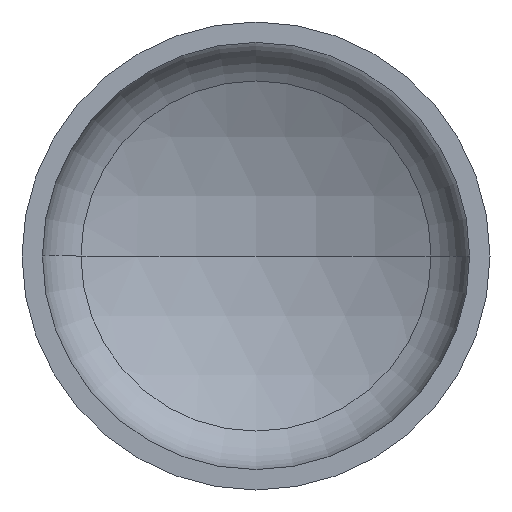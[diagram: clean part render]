
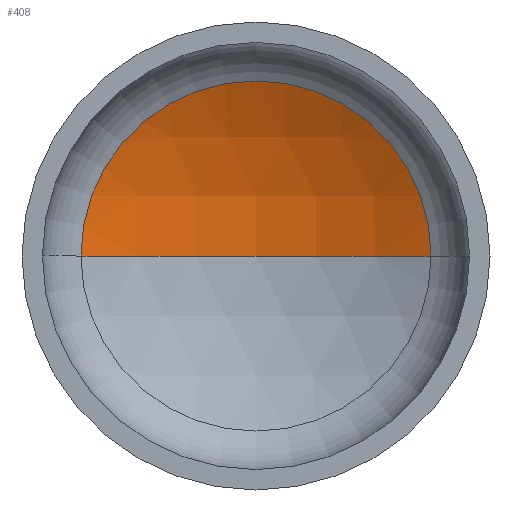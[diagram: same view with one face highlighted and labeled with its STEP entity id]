
A CAD part, front view. The second image highlights one B-rep face of the part: STEP entity #408.
In plain terms, the highlighted spherical face has radius 1760 mm.
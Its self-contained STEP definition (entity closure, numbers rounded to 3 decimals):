
#13 = VERTEX_POINT ( 'NONE', #345 ) ;
#14 = AXIS2_PLACEMENT_3D ( 'NONE', #207, #381, #386 ) ;
#15 = AXIS2_PLACEMENT_3D ( 'NONE', #126, #127, #240 ) ;
#39 = EDGE_LOOP ( 'NONE', ( #81, #98, #108 ) ) ;
#81 = ORIENTED_EDGE ( 'NONE', *, *, #378, .F. ) ;
#98 = ORIENTED_EDGE ( 'NONE', *, *, #340, .T. ) ;
#101 = CARTESIAN_POINT ( 'NONE',  ( 0., -1155.191, 0. ) ) ;
#108 = ORIENTED_EDGE ( 'NONE', *, *, #337, .T. ) ;
#126 = CARTESIAN_POINT ( 'NONE',  ( 0., 400.539, 0. ) ) ;
#127 = DIRECTION ( 'NONE',  ( 0., -1., 0. ) ) ;
#130 = VERTEX_POINT ( 'NONE', #162 ) ;
#140 = DIRECTION ( 'NONE',  ( 0., 0., 1. ) ) ;
#153 = SPHERICAL_SURFACE ( 'NONE', #350, 1760. ) ;
#162 = CARTESIAN_POINT ( 'NONE',  ( 822.986, 400.539, 0. ) ) ;
#164 = FACE_OUTER_BOUND ( 'NONE', #39, .T. ) ;
#181 = VERTEX_POINT ( 'NONE', #186 ) ;
#186 = CARTESIAN_POINT ( 'NONE',  ( -822.986, 400.539, 0. ) ) ;
#204 = CIRCLE ( 'NONE', #15, 822.986 ) ;
#207 = CARTESIAN_POINT ( 'NONE',  ( 0., -1155.191, 0. ) ) ;
#240 = DIRECTION ( 'NONE',  ( 1., 0., 0. ) ) ;
#264 = DIRECTION ( 'NONE',  ( 0., 0., -1. ) ) ;
#265 = DIRECTION ( 'NONE',  ( 1., 0., 0. ) ) ;
#278 = AXIS2_PLACEMENT_3D ( 'NONE', #317, #140, #265 ) ;
#317 = CARTESIAN_POINT ( 'NONE',  ( 0., -1155.191, 0. ) ) ;
#337 = EDGE_CURVE ( 'NONE', #130, #181, #204, .T. ) ;
#340 = EDGE_CURVE ( 'NONE', #13, #130, #395, .T. ) ;
#345 = CARTESIAN_POINT ( 'NONE',  ( 0., 604.809, 0. ) ) ;
#350 = AXIS2_PLACEMENT_3D ( 'NONE', #101, #264, #405 ) ;
#378 = EDGE_CURVE ( 'NONE', #13, #181, #380, .T. ) ;
#380 = CIRCLE ( 'NONE', #278, 1760. ) ;
#381 = DIRECTION ( 'NONE',  ( 0., 0., -1. ) ) ;
#386 = DIRECTION ( 'NONE',  ( -1., 0., 0. ) ) ;
#395 = CIRCLE ( 'NONE', #14, 1760. ) ;
#405 = DIRECTION ( 'NONE',  ( -1., 0., 0. ) ) ;
#408 = ADVANCED_FACE ( 'NONE', ( #164 ), #153, .F. ) ;
